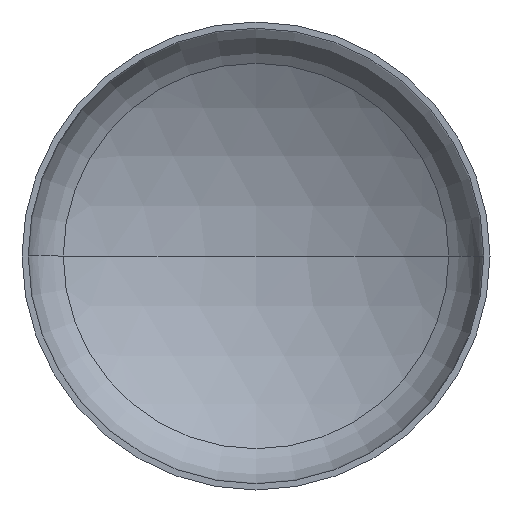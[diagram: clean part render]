
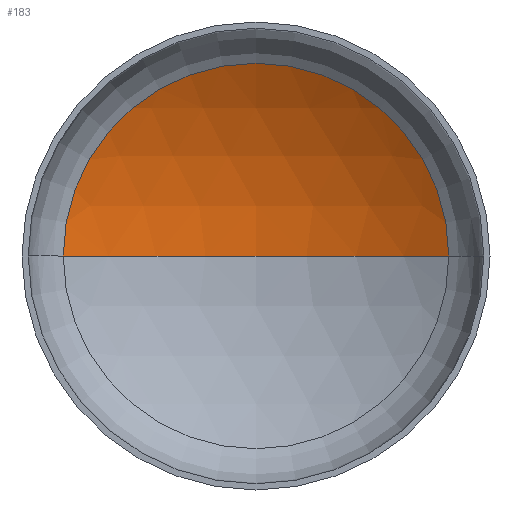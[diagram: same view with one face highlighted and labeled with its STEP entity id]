
A CAD part, front view. The second image highlights one B-rep face of the part: STEP entity #183.
In plain terms, the highlighted spherical face has radius 1920 mm.
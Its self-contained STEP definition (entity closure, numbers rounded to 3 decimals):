
#8 = ORIENTED_EDGE ( 'NONE', *, *, #322, .F. ) ;
#20 = DIRECTION ( 'NONE',  ( 1., 0., 0. ) ) ;
#25 = VERTEX_POINT ( 'NONE', #202 ) ;
#37 = DIRECTION ( 'NONE',  ( 0., -1., 0. ) ) ;
#38 = EDGE_CURVE ( 'NONE', #64, #326, #171, .T. ) ;
#40 = CARTESIAN_POINT ( 'NONE',  ( 0., 417.196, 0. ) ) ;
#64 = VERTEX_POINT ( 'NONE', #318 ) ;
#80 = EDGE_LOOP ( 'NONE', ( #8, #206, #115 ) ) ;
#90 = CARTESIAN_POINT ( 'NONE',  ( 0., -1228.795, 0. ) ) ;
#115 = ORIENTED_EDGE ( 'NONE', *, *, #38, .T. ) ;
#125 = AXIS2_PLACEMENT_3D ( 'NONE', #178, #353, #211 ) ;
#132 = DIRECTION ( 'NONE',  ( 1., 0., 0. ) ) ;
#135 = CIRCLE ( 'NONE', #160, 1920. ) ;
#160 = AXIS2_PLACEMENT_3D ( 'NONE', #215, #379, #239 ) ;
#171 = CIRCLE ( 'NONE', #300, 988.49 ) ;
#178 = CARTESIAN_POINT ( 'NONE',  ( 0., -1228.795, 0. ) ) ;
#183 = ADVANCED_FACE ( 'NONE', ( #349 ), #225, .F. ) ;
#202 = CARTESIAN_POINT ( 'NONE',  ( 0., 691.205, 0. ) ) ;
#206 = ORIENTED_EDGE ( 'NONE', *, *, #319, .T. ) ;
#211 = DIRECTION ( 'NONE',  ( -1., 0., 0. ) ) ;
#215 = CARTESIAN_POINT ( 'NONE',  ( 0., -1228.795, 0. ) ) ;
#219 = AXIS2_PLACEMENT_3D ( 'NONE', #90, #284, #132 ) ;
#225 = SPHERICAL_SURFACE ( 'NONE', #125, 1920. ) ;
#239 = DIRECTION ( 'NONE',  ( -1., 0., 0. ) ) ;
#265 = CIRCLE ( 'NONE', #219, 1920. ) ;
#284 = DIRECTION ( 'NONE',  ( 0., 0., 1. ) ) ;
#300 = AXIS2_PLACEMENT_3D ( 'NONE', #40, #37, #20 ) ;
#308 = CARTESIAN_POINT ( 'NONE',  ( -988.49, 417.196, 0. ) ) ;
#318 = CARTESIAN_POINT ( 'NONE',  ( 988.49, 417.196, 0. ) ) ;
#319 = EDGE_CURVE ( 'NONE', #25, #64, #135, .T. ) ;
#322 = EDGE_CURVE ( 'NONE', #25, #326, #265, .T. ) ;
#326 = VERTEX_POINT ( 'NONE', #308 ) ;
#349 = FACE_OUTER_BOUND ( 'NONE', #80, .T. ) ;
#353 = DIRECTION ( 'NONE',  ( 0., 0., -1. ) ) ;
#379 = DIRECTION ( 'NONE',  ( 0., 0., -1. ) ) ;
